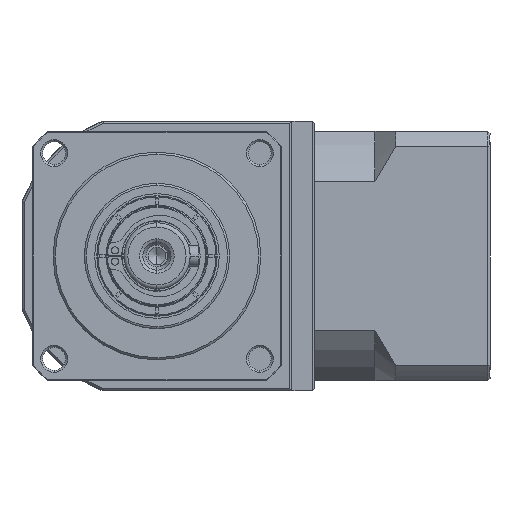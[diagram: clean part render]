
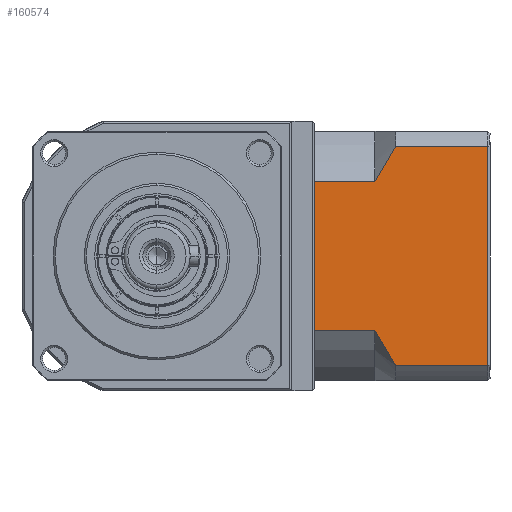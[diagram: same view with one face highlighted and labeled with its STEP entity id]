
A CAD part, left-side view. The second image highlights one B-rep face of the part: STEP entity #160574.
In plain terms, the highlighted planar face has unit normal (-1, 0, 0).
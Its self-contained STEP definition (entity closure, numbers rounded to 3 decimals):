
#11568 = CARTESIAN_POINT ( 'NONE',  ( 13.597, -72.933, -140.456 ) ) ;
#11692 = CARTESIAN_POINT ( 'NONE',  ( 13.597, -74.484, -101.517 ) ) ;
#15792 = CARTESIAN_POINT ( 'NONE',  ( 13.597, -72.933, -104.401 ) ) ;
#16793 = VECTOR ( 'NONE', #34980, 1000. ) ;
#18054 = CARTESIAN_POINT ( 'NONE',  ( 13.597, -77.933, -148.886 ) ) ;
#19523 = EDGE_LOOP ( 'NONE', ( #63035, #86367, #72850, #144690, #69102, #121562, #55750, #104233 ) ) ;
#20425 = EDGE_CURVE ( 'NONE', #65674, #69367, #91375, .T. ) ;
#24181 = CARTESIAN_POINT ( 'NONE',  ( 13.597, -72.933, -104.401 ) ) ;
#34096 = FACE_OUTER_BOUND ( 'NONE', #19523, .T. ) ;
#34255 = CARTESIAN_POINT ( 'NONE',  ( 13.597, -58.433, -152.428 ) ) ;
#34980 = DIRECTION ( 'NONE',  ( 0., 1., 0. ) ) ;
#37355 = VECTOR ( 'NONE', #83838, 1000. ) ;
#38798 = LINE ( 'NONE', #34255, #133876 ) ;
#42609 = LINE ( 'NONE', #144240, #75567 ) ;
#46000 = VERTEX_POINT ( 'NONE', #99960 ) ;
#46686 = DIRECTION ( 'NONE',  ( 0., 0., -1. ) ) ;
#49831 = LINE ( 'NONE', #158478, #16793 ) ;
#50072 = DIRECTION ( 'NONE',  ( 1., 0., 0. ) ) ;
#52373 = CARTESIAN_POINT ( 'NONE',  ( 13.597, -72.933, -140.456 ) ) ;
#55750 = ORIENTED_EDGE ( 'NONE', *, *, #117934, .F. ) ;
#55887 = VERTEX_POINT ( 'NONE', #18054 ) ;
#57540 = DIRECTION ( 'NONE',  ( 0., -1., 0. ) ) ;
#61094 = CARTESIAN_POINT ( 'NONE',  ( 13.597, -76.16, -98.709 ) ) ;
#63035 = ORIENTED_EDGE ( 'NONE', *, *, #121714, .F. ) ;
#65674 = VERTEX_POINT ( 'NONE', #92833 ) ;
#66312 = CARTESIAN_POINT ( 'NONE',  ( 13.597, -100.133, -148.886 ) ) ;
#68365 = LINE ( 'NONE', #52373, #134320 ) ;
#69102 = ORIENTED_EDGE ( 'NONE', *, *, #91782, .F. ) ;
#69367 = VERTEX_POINT ( 'NONE', #15792 ) ;
#70349 = LINE ( 'NONE', #100186, #99428 ) ;
#72850 = ORIENTED_EDGE ( 'NONE', *, *, #115409, .F. ) ;
#73894 = CARTESIAN_POINT ( 'NONE',  ( 13.597, -76.158, -146.143 ) ) ;
#74377 = EDGE_CURVE ( 'NONE', #95519, #46000, #70349, .T. ) ;
#74440 = PLANE ( 'NONE',  #140441 ) ;
#75567 = VECTOR ( 'NONE', #57540, 1000. ) ;
#79564 = CARTESIAN_POINT ( 'NONE',  ( 13.597, -72.933, -104.401 ) ) ;
#83838 = DIRECTION ( 'NONE',  ( 0., -1., 0. ) ) ;
#85592 = CARTESIAN_POINT ( 'NONE',  ( 13.597, -72.933, -140.456 ) ) ;
#86367 = ORIENTED_EDGE ( 'NONE', *, *, #74377, .T. ) ;
#86375 = CARTESIAN_POINT ( 'NONE',  ( 13.597, -77.933, -148.886 ) ) ;
#91375 = B_SPLINE_CURVE_WITH_KNOTS ( 'NONE', 3,
 ( #160125, #147764, #61094, #11692, #98429, #24181 ),
 .UNSPECIFIED., .F., .F.,
 ( 4, 2, 4 ),
 ( 0.052, 0.057, 0.062 ),
 .UNSPECIFIED. ) ;
#91782 = EDGE_CURVE ( 'NONE', #96619, #69367, #103335, .T. ) ;
#92833 = CARTESIAN_POINT ( 'NONE',  ( 13.597, -77.933, -95.971 ) ) ;
#95519 = VERTEX_POINT ( 'NONE', #66312 ) ;
#96619 = VERTEX_POINT ( 'NONE', #101284 ) ;
#98311 = CARTESIAN_POINT ( 'NONE',  ( 13.597, -73.683, -141.913 ) ) ;
#98429 = CARTESIAN_POINT ( 'NONE',  ( 13.597, -73.681, -102.949 ) ) ;
#99428 = VECTOR ( 'NONE', #138168, 1000. ) ;
#99960 = CARTESIAN_POINT ( 'NONE',  ( 13.597, -100.133, -95.971 ) ) ;
#100186 = CARTESIAN_POINT ( 'NONE',  ( 13.597, -100.133, -152.428 ) ) ;
#101284 = CARTESIAN_POINT ( 'NONE',  ( 13.597, -58.433, -104.401 ) ) ;
#103335 = LINE ( 'NONE', #79564, #37355 ) ;
#104233 = ORIENTED_EDGE ( 'NONE', *, *, #113875, .T. ) ;
#109290 = B_SPLINE_CURVE_WITH_KNOTS ( 'NONE', 3,
 ( #11568, #98311, #148164, #73894, #160507, #86375 ),
 .UNSPECIFIED., .F., .F.,
 ( 4, 2, 4 ),
 ( 0.1, 0.104, 0.109 ),
 .UNSPECIFIED. ) ;
#113875 = EDGE_CURVE ( 'NONE', #152683, #55887, #109290, .T. ) ;
#114603 = CARTESIAN_POINT ( 'NONE',  ( 13.597, -58.433, -140.456 ) ) ;
#115409 = EDGE_CURVE ( 'NONE', #65674, #46000, #42609, .T. ) ;
#117934 = EDGE_CURVE ( 'NONE', #152683, #125681, #68365, .T. ) ;
#121562 = ORIENTED_EDGE ( 'NONE', *, *, #124574, .T. ) ;
#121714 = EDGE_CURVE ( 'NONE', #95519, #55887, #49831, .T. ) ;
#124340 = CARTESIAN_POINT ( 'NONE',  ( 13.597, -100.633, -152.428 ) ) ;
#124574 = EDGE_CURVE ( 'NONE', #96619, #125681, #38798, .T. ) ;
#125681 = VERTEX_POINT ( 'NONE', #114603 ) ;
#133876 = VECTOR ( 'NONE', #46686, 1000. ) ;
#134320 = VECTOR ( 'NONE', #139107, 1000. ) ;
#136808 = DIRECTION ( 'NONE',  ( 0., 1., 0. ) ) ;
#138168 = DIRECTION ( 'NONE',  ( 0., 0., 1. ) ) ;
#139107 = DIRECTION ( 'NONE',  ( 0., 1., 0. ) ) ;
#140441 = AXIS2_PLACEMENT_3D ( 'NONE', #124340, #50072, #136808 ) ;
#144240 = CARTESIAN_POINT ( 'NONE',  ( 13.597, -72.933, -95.971 ) ) ;
#144690 = ORIENTED_EDGE ( 'NONE', *, *, #20425, .T. ) ;
#147764 = CARTESIAN_POINT ( 'NONE',  ( 13.597, -77.033, -97.331 ) ) ;
#148164 = CARTESIAN_POINT ( 'NONE',  ( 13.597, -74.484, -143.338 ) ) ;
#152683 = VERTEX_POINT ( 'NONE', #85592 ) ;
#158478 = CARTESIAN_POINT ( 'NONE',  ( 13.597, -72.933, -148.886 ) ) ;
#160125 = CARTESIAN_POINT ( 'NONE',  ( 13.597, -77.933, -95.971 ) ) ;
#160507 = CARTESIAN_POINT ( 'NONE',  ( 13.597, -77.032, -147.523 ) ) ;
#160574 = ADVANCED_FACE ( 'NONE', ( #34096 ), #74440, .F. ) ;
